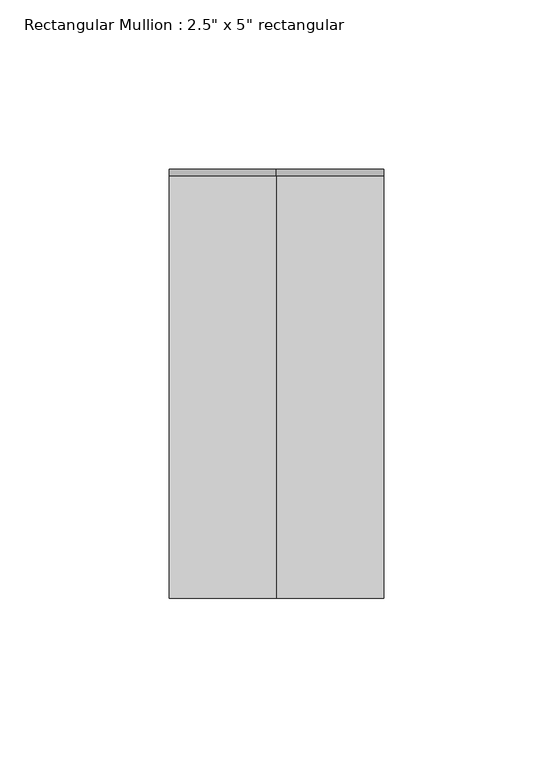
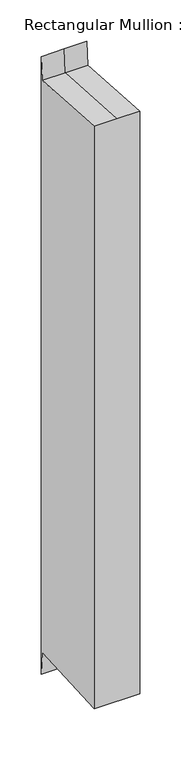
"""IFC4 building model written with IfcOpenShell, lengths in millimetres: member geometry."""

from ifc_helpers import new_model, si_unit, origin, place, context, project, spatial, faceted_brep, source, transform, mapped, element, save


def member_7c546d85(model_context):
    return source(origin(), model_context, "Body", "Brep", [
        faceted_brep([(-31.75, 63.5, 29.7846233), (0.0, 63.5, 29.7846233), (31.75, 63.5, 29.7846233), (31.75, 63.5, -880.6846233), (-31.75, 63.5, -880.6846233), (-31.75, -63.5, 3.8736342), (-31.75, 61.4149606, -3.8662198), (-31.75, 61.4149606, -847.0337802), (-31.75, -63.5, -854.7736342), (31.75, -63.5, 3.8736342), (0.0, -63.5, 3.8736342), (31.75, -63.5, -854.7736342), (31.75, 61.4149606, -3.8662198), (31.75, 61.4149606, -847.0337802), (0.0, 61.4149606, -3.8662198)], [[[0, 1, 2, 3, 4]], [[5, 6, 0, 4, 7, 8]], [[9, 10, 5, 8, 11]], [[2, 12, 9, 11, 13, 3]], [[2, 1, 14, 12]], [[1, 0, 6, 14]], [[6, 5, 10, 14]], [[10, 9, 12, 14]], [[3, 13, 7, 4]], [[13, 11, 8, 7]]]),
    ])


if __name__ == "__main__":
    model = new_model("IFC4")
    model_context = context("Model", 3, world=origin())
    ifc_project = project(units=[si_unit("LENGTHUNIT", "METRE", prefix="MILLI")], contexts=[model_context])
    site = spatial("IfcSite", under=ifc_project)
    building = spatial("IfcBuilding", under=site)
    placement = place(None, origin())
    member_shape = member_7c546d85(model_context)
    element("IfcMember", 1, ObjectType="Rectangular Mullion : 2.5\" x 5\" rectangular", at=placement, inside=building, context=model_context, shape_type="MappedRepresentation", body=[
        mapped(member_shape, transform((0.0, 0.0, 0.0), x_axis=(1.0, 0.0, 0.0), y_axis=(0.0, 1.0, 0.0), z_axis=(0.0, 0.0, 1.0))),
    ])
    save(model, "model.ifc")
